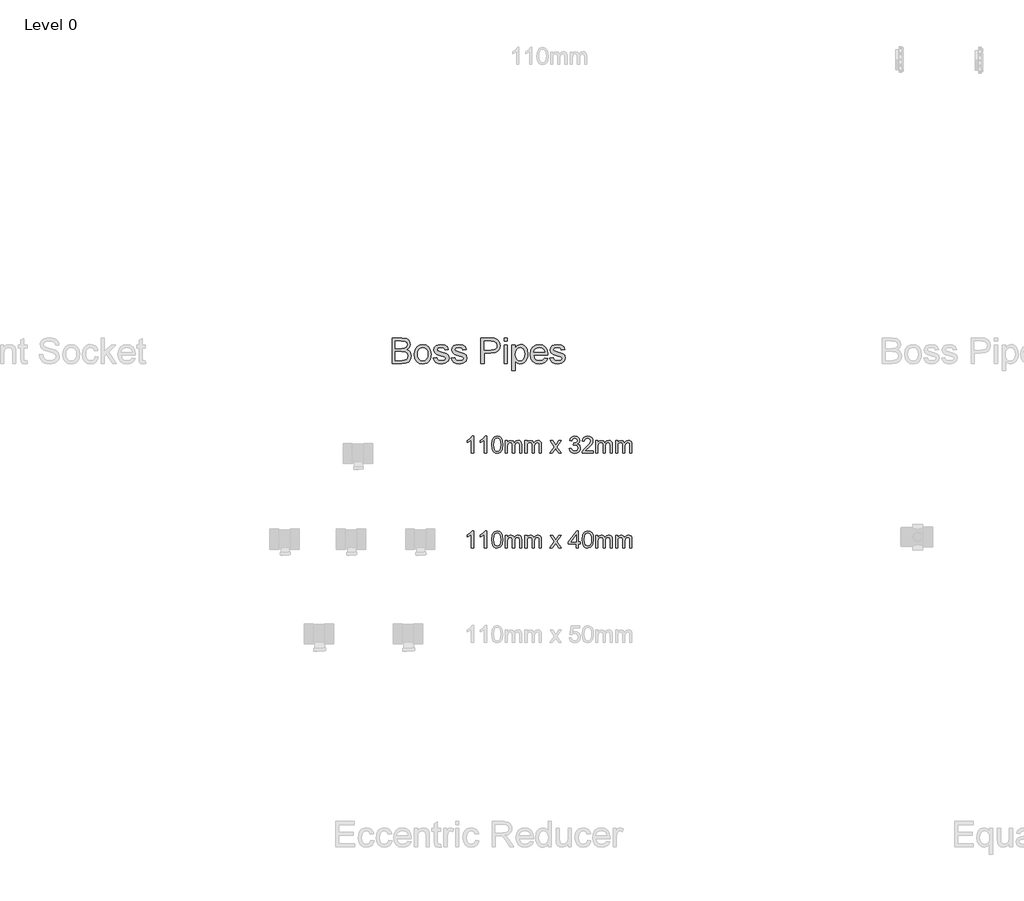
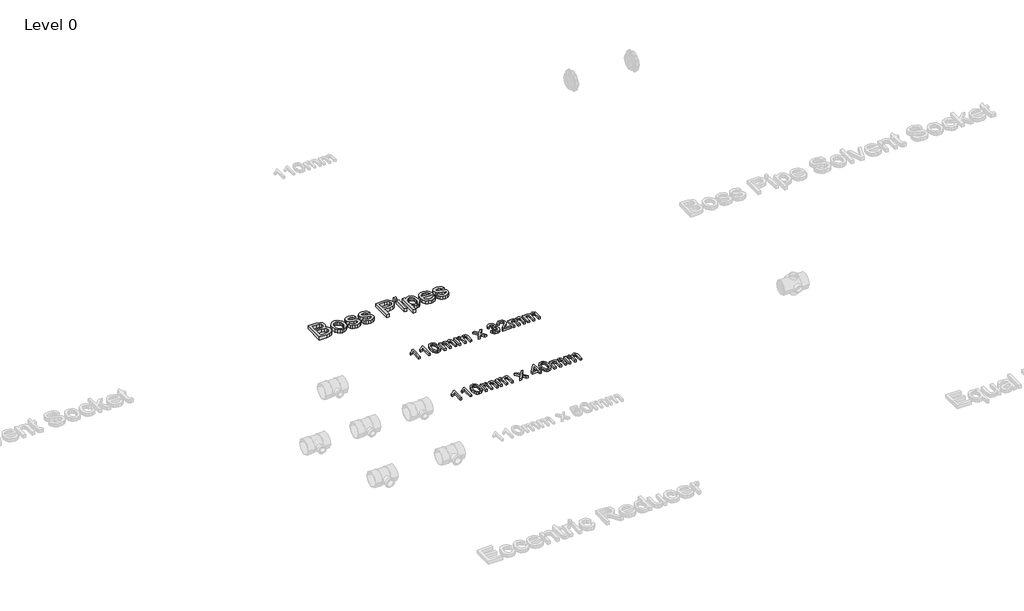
# One storey, part 12 of 28: 3 proxies.
"""IFC4 building model written with IfcOpenShell, lengths in millimetres."""

from ifc_helpers import new_model, si_unit, origin, origin_with_axes, place, context, project, spatial, polyline, outline, extrude, element, save

model = new_model("IFC4")

# Units and contexts
model_context = context("Model", 3, world=origin())
ifc_project = project(units=[si_unit("LENGTHUNIT", "METRE", prefix="MILLI")], contexts=[model_context])

# Site, building, storey
site = spatial("IfcSite", under=ifc_project)
building = spatial("IfcBuilding", under=site)
storey = spatial("IfcBuildingStorey", under=building, Name="Level 0", Elevation=0.0)

# Proxies
placement = place(None, origin())
element("IfcBuildingElementProxy", 1, Name="100mm Arial", ObjectType="100mm Arial", at=placement, inside=storey, context=model_context, shape_type="SweptSolid", body=[
    extrude(outline(polyline([(-17554.0370111, 5986.6504048), (-17566.3447034, 5986.6504048), (-17566.3447034, 6063.381174), (-17578.0033572, 6055.0758856), (-17590.960088, 6048.8619433), (-17590.960088, 6060.4965587), (-17572.9192226, 6072.0109817), (-17561.9697034, 6085.1119433), (-17554.0370111, 6085.1119433), (-17554.0370111, 5986.6504048)])), origin_with_axes(), (0.0, 0.0, 1.0), 15.0),
    extrude(outline(polyline([(-17478.6523957, 5986.6504048), (-17490.960088, 5986.6504048), (-17490.960088, 6063.381174), (-17502.6187418, 6055.0758856), (-17515.5754726, 6048.8619433), (-17515.5754726, 6060.4965587), (-17497.5346072, 6072.0109817), (-17486.585088, 6085.1119433), (-17478.6523957, 6085.1119433), (-17478.6523957, 5986.6504048)])), origin_with_axes(), (0.0, 0.0, 1.0), 15.0),
    extrude(outline(polyline([(-17449.4216264, 6035.0879048), (-17445.803838, 6063.4172317), (-17435.0586457, 6079.7513663), (-17417.1139341, 6085.1119433), (-17402.7389341, 6081.9388663), (-17392.8110495, 6072.7922317), (-17387.0418188, 6058.224924), (-17384.8062418, 6035.0879048), (-17388.3879726, 6006.8787702), (-17399.0971072, 5990.5085779), (-17417.1139341, 5985.1119433), (-17429.9023957, 5987.4556933), (-17439.6139341, 5994.4869433), (-17446.9697034, 6011.1395875), (-17449.4216264, 6035.0879048)]), holes=[polyline([(-17437.1139341, 6035.1119433), (-17435.6716264, 6015.7519673), (-17431.3447034, 6004.5470394), (-17424.9023957, 5999.2014865), (-17417.1139341, 5997.4196356), (-17409.3254726, 5999.2074962), (-17402.8831649, 6004.5710779), (-17398.5562418, 6015.7820154), (-17397.1139341, 6035.1119433), (-17398.5081649, 6054.0362221), (-17402.6908572, 6065.3282894), (-17409.1211457, 6070.9352606), (-17417.2581649, 6072.804251), (-17424.9624918, 6071.1576163), (-17431.1523957, 6066.2177125), (-17435.6235495, 6054.2225202), (-17437.1139341, 6035.1119433)])]), origin_with_axes(), (0.0, 0.0, 1.0), 15.0),
    extrude(outline(polyline([(-17370.960088, 5986.6504048), (-17370.960088, 6058.9580971), (-17358.6523957, 6058.9580971), (-17358.6523957, 6047.0590587), (-17350.1908572, 6056.8066548), (-17338.147588, 6060.4965587), (-17325.8158572, 6056.7345394), (-17319.0370111, 6046.193674), (-17309.4336457, 6056.9208375), (-17297.3062418, 6060.4965587), (-17288.0544389, 6059.0091788), (-17281.2124918, 6054.5470394), (-17276.9847274, 6046.9899481), (-17275.5754726, 6036.2177125), (-17275.5754726, 5986.6504048), (-17287.8831649, 5986.6504048), (-17287.8831649, 6030.929251), (-17289.0249918, 6041.2056933), (-17293.1596072, 6046.2657894), (-17300.1908572, 6048.1888663), (-17312.2942226, 6043.2609817), (-17317.1139341, 6027.4677125), (-17317.1139341, 5986.6504048), (-17329.4216264, 5986.6504048), (-17329.4216264, 6032.2994433), (-17332.2701841, 6044.2225202), (-17341.6091264, 6048.1888663), (-17350.7197034, 6045.5446356), (-17356.7773957, 6037.804251), (-17358.6523957, 6023.116751), (-17358.6523957, 5986.6504048), (-17370.960088, 5986.6504048)])), origin_with_axes(), (0.0, 0.0, 1.0), 15.0),
    extrude(outline(polyline([(-17257.1139341, 5986.6504048), (-17257.1139341, 6058.9580971), (-17244.8062418, 6058.9580971), (-17244.8062418, 6047.0590587), (-17236.3447034, 6056.8066548), (-17224.3014341, 6060.4965587), (-17211.9697034, 6056.7345394), (-17205.1908572, 6046.193674), (-17195.5874918, 6056.9208375), (-17183.460088, 6060.4965587), (-17174.2082851, 6059.0091788), (-17167.366338, 6054.5470394), (-17163.1385736, 6046.9899481), (-17161.7293188, 6036.2177125), (-17161.7293188, 5986.6504048), (-17174.0370111, 5986.6504048), (-17174.0370111, 6030.929251), (-17175.178838, 6041.2056933), (-17179.3134534, 6046.2657894), (-17186.3447034, 6048.1888663), (-17198.4480688, 6043.2609817), (-17203.2677803, 6027.4677125), (-17203.2677803, 5986.6504048), (-17215.5754726, 5986.6504048), (-17215.5754726, 6032.2994433), (-17218.4240303, 6044.2225202), (-17227.7629726, 6048.1888663), (-17236.8735495, 6045.5446356), (-17242.9312418, 6037.804251), (-17244.8062418, 6023.116751), (-17244.8062418, 5986.6504048), (-17257.1139341, 5986.6504048)])), origin_with_axes(), (0.0, 0.0, 1.0), 15.0),
    extrude(outline(polyline([(-17112.4985495, 5986.6504048), (-17086.2004726, 6022.9965587), (-17110.960088, 6058.9580971), (-17096.1523957, 6058.9580971), (-17084.2052803, 6041.6504048), (-17078.6283572, 6033.4773279), (-17073.7966264, 6040.1600202), (-17060.1908572, 6058.9580971), (-17045.3831649, 6058.9580971), (-17071.3927803, 6022.9965587), (-17046.3447034, 5986.6504048), (-17061.1523957, 5986.6504048), (-17076.2245111, 6008.5013663), (-17078.9889341, 6012.491751), (-17097.6908572, 5986.6504048), (-17112.4985495, 5986.6504048)])), origin_with_axes(), (0.0, 0.0, 1.0), 15.0),
    extrude(outline(polyline([(-17000.1908572, 6012.804251), (-16987.8831649, 6014.3427125), (-16981.0922995, 6001.3859817), (-16968.3879726, 5997.4196356), (-16959.9504726, 5998.7838183), (-16953.4360495, 6002.8763663), (-16947.8831649, 6016.3859817), (-16953.3879726, 6029.1143471), (-16967.3783572, 6034.1504048), (-16976.0081649, 6032.804251), (-16974.6379726, 6045.1119433), (-16972.6668188, 6044.9677125), (-16958.7004726, 6048.5013663), (-16954.0490303, 6052.9845394), (-16952.4985495, 6059.366751), (-16956.9937418, 6068.9941548), (-16968.5802803, 6072.804251), (-16980.3110495, 6068.9580971), (-16986.3447034, 6057.4196356), (-16998.6523957, 6058.9580971), (-16995.0285976, 6070.0097798), (-16988.5802803, 6078.2609817), (-16979.7581649, 6083.3992029), (-16969.0129726, 6085.1119433), (-16954.1692226, 6081.7345394), (-16943.7846072, 6072.5037702), (-16940.1908572, 6060.0879048), (-16943.6043188, 6048.741751), (-16953.7004726, 6040.5927125), (-16940.2870111, 6032.179251), (-16935.5754726, 6016.1696356), (-16937.9312418, 6004.1744433), (-16944.9985495, 5994.1504048), (-16955.6656168, 5987.3715587), (-16968.8206649, 5985.1119433), (-16980.7197034, 5987.0410298), (-16990.4072034, 5992.8282894), (-16997.1439822, 6001.6804529), (-17000.1908572, 6012.804251)])), origin_with_axes(), (0.0, 0.0, 1.0), 15.0),
    extrude(outline(polyline([(-16861.7293188, 5998.9580971), (-16861.7293188, 5986.6504048), (-16926.3447034, 5986.6504048), (-16925.022588, 5995.1359817), (-16917.5466264, 6008.2008856), (-16902.1379726, 6022.4677125), (-16880.8879726, 6042.9725202), (-16875.5754726, 6056.9148279), (-16880.5874918, 6068.2008856), (-16893.6764341, 6072.804251), (-16907.3182611, 6068.3090587), (-16912.4985495, 6055.881174), (-16924.8062418, 6057.4196356), (-16921.8224678, 6069.3246837), (-16915.3711457, 6078.0205971), (-16905.7888139, 6083.3391067), (-16893.4120111, 6085.1119433), (-16880.9450639, 6083.1407894), (-16871.3807611, 6077.2273279), (-16865.2960255, 6068.3931933), (-16863.2677803, 6057.6600202), (-16865.4552803, 6045.9893471), (-16872.7269149, 6033.9220394), (-16890.3591264, 6017.0590587), (-16904.5177803, 6005.2201163), (-16910.0706649, 5998.9580971), (-16861.7293188, 5998.9580971)])), origin_with_axes(), (0.0, 0.0, 1.0), 15.0),
    extrude(outline(polyline([(-16846.3447034, 5986.6504048), (-16846.3447034, 6058.9580971), (-16834.0370111, 6058.9580971), (-16834.0370111, 6047.0590587), (-16825.5754726, 6056.8066548), (-16813.5322034, 6060.4965587), (-16801.2004726, 6056.7345394), (-16794.4216264, 6046.193674), (-16784.8182611, 6056.9208375), (-16772.6908572, 6060.4965587), (-16763.4390543, 6059.0091788), (-16756.5971072, 6054.5470394), (-16752.3693428, 6046.9899481), (-16750.960088, 6036.2177125), (-16750.960088, 5986.6504048), (-16763.2677803, 5986.6504048), (-16763.2677803, 6030.929251), (-16764.4096072, 6041.2056933), (-16768.5442226, 6046.2657894), (-16775.5754726, 6048.1888663), (-16787.678838, 6043.2609817), (-16792.4985495, 6027.4677125), (-16792.4985495, 5986.6504048), (-16804.8062418, 5986.6504048), (-16804.8062418, 6032.2994433), (-16807.6547995, 6044.2225202), (-16816.9937418, 6048.1888663), (-16826.1043188, 6045.5446356), (-16832.1620111, 6037.804251), (-16834.0370111, 6023.116751), (-16834.0370111, 5986.6504048), (-16846.3447034, 5986.6504048)])), origin_with_axes(), (0.0, 0.0, 1.0), 15.0),
    extrude(outline(polyline([(-16732.4985495, 5986.6504048), (-16732.4985495, 6058.9580971), (-16720.1908572, 6058.9580971), (-16720.1908572, 6047.0590587), (-16711.7293188, 6056.8066548), (-16699.6860495, 6060.4965587), (-16687.3543188, 6056.7345394), (-16680.5754726, 6046.193674), (-16670.9721072, 6056.9208375), (-16658.8447034, 6060.4965587), (-16649.5929005, 6059.0091788), (-16642.7509534, 6054.5470394), (-16638.5231889, 6046.9899481), (-16637.1139341, 6036.2177125), (-16637.1139341, 5986.6504048), (-16649.4216264, 5986.6504048), (-16649.4216264, 6030.929251), (-16650.5634534, 6041.2056933), (-16654.6980688, 6046.2657894), (-16661.7293188, 6048.1888663), (-16673.8326841, 6043.2609817), (-16678.6523957, 6027.4677125), (-16678.6523957, 5986.6504048), (-16690.960088, 5986.6504048), (-16690.960088, 6032.2994433), (-16693.8086457, 6044.2225202), (-16703.147588, 6048.1888663), (-16712.2581649, 6045.5446356), (-16718.3158572, 6037.804251), (-16720.1908572, 6023.116751), (-16720.1908572, 5986.6504048), (-16732.4985495, 5986.6504048)])), origin_with_axes(), (0.0, 0.0, 1.0), 15.0),
])
element("IfcBuildingElementProxy", 2, Name="100mm Arial", ObjectType="100mm Arial", at=placement, inside=storey, context=model_context, shape_type="SweptSolid", body=[
    extrude(outline(polyline([(-17554.0370111, 5437.7167304), (-17566.3447034, 5437.7167304), (-17566.3447034, 5514.4474996), (-17578.0033572, 5506.1422111), (-17590.960088, 5499.9282688), (-17590.960088, 5511.5628842), (-17572.9192226, 5523.0773073), (-17561.9697034, 5536.1782688), (-17554.0370111, 5536.1782688), (-17554.0370111, 5437.7167304)])), origin_with_axes(), (0.0, 0.0, 1.0), 15.0),
    extrude(outline(polyline([(-17478.6523957, 5437.7167304), (-17490.960088, 5437.7167304), (-17490.960088, 5514.4474996), (-17502.6187418, 5506.1422111), (-17515.5754726, 5499.9282688), (-17515.5754726, 5511.5628842), (-17497.5346072, 5523.0773073), (-17486.585088, 5536.1782688), (-17478.6523957, 5536.1782688), (-17478.6523957, 5437.7167304)])), origin_with_axes(), (0.0, 0.0, 1.0), 15.0),
    extrude(outline(polyline([(-17449.4216264, 5486.1542304), (-17445.803838, 5514.4835573), (-17435.0586457, 5530.8176919), (-17417.1139341, 5536.1782688), (-17402.7389341, 5533.0051919), (-17392.8110495, 5523.8585573), (-17387.0418188, 5509.2912496), (-17384.8062418, 5486.1542304), (-17388.3879726, 5457.9450958), (-17399.0971072, 5441.5749035), (-17417.1139341, 5436.1782688), (-17429.9023957, 5438.5220188), (-17439.6139341, 5445.5532688), (-17446.9697034, 5462.2059131), (-17449.4216264, 5486.1542304)]), holes=[polyline([(-17437.1139341, 5486.1782688), (-17435.6716264, 5466.8182929), (-17431.3447034, 5455.613365), (-17424.9023957, 5450.2678121), (-17417.1139341, 5448.4859611), (-17409.3254726, 5450.2738217), (-17402.8831649, 5455.6374035), (-17398.5562418, 5466.848341), (-17397.1139341, 5486.1782688), (-17398.5081649, 5505.1025477), (-17402.6908572, 5516.394615), (-17409.1211457, 5522.0015861), (-17417.2581649, 5523.8705765), (-17424.9624918, 5522.2239419), (-17431.1523957, 5517.2840381), (-17435.6235495, 5505.2888458), (-17437.1139341, 5486.1782688)])]), origin_with_axes(), (0.0, 0.0, 1.0), 15.0),
    extrude(outline(polyline([(-17370.960088, 5437.7167304), (-17370.960088, 5510.0244227), (-17358.6523957, 5510.0244227), (-17358.6523957, 5498.1253842), (-17350.1908572, 5507.8729804), (-17338.147588, 5511.5628842), (-17325.8158572, 5507.800865), (-17319.0370111, 5497.2599996), (-17309.4336457, 5507.9871631), (-17297.3062418, 5511.5628842), (-17288.0544389, 5510.0755044), (-17281.2124918, 5505.613365), (-17276.9847274, 5498.0562736), (-17275.5754726, 5487.2840381), (-17275.5754726, 5437.7167304), (-17287.8831649, 5437.7167304), (-17287.8831649, 5481.9955765), (-17289.0249918, 5492.2720188), (-17293.1596072, 5497.332115), (-17300.1908572, 5499.2551919), (-17312.2942226, 5494.3273073), (-17317.1139341, 5478.5340381), (-17317.1139341, 5437.7167304), (-17329.4216264, 5437.7167304), (-17329.4216264, 5483.3657688), (-17332.2701841, 5495.2888458), (-17341.6091264, 5499.2551919), (-17350.7197034, 5496.6109611), (-17356.7773957, 5488.8705765), (-17358.6523957, 5474.1830765), (-17358.6523957, 5437.7167304), (-17370.960088, 5437.7167304)])), origin_with_axes(), (0.0, 0.0, 1.0), 15.0),
    extrude(outline(polyline([(-17257.1139341, 5437.7167304), (-17257.1139341, 5510.0244227), (-17244.8062418, 5510.0244227), (-17244.8062418, 5498.1253842), (-17236.3447034, 5507.8729804), (-17224.3014341, 5511.5628842), (-17211.9697034, 5507.800865), (-17205.1908572, 5497.2599996), (-17195.5874918, 5507.9871631), (-17183.460088, 5511.5628842), (-17174.2082851, 5510.0755044), (-17167.366338, 5505.613365), (-17163.1385736, 5498.0562736), (-17161.7293188, 5487.2840381), (-17161.7293188, 5437.7167304), (-17174.0370111, 5437.7167304), (-17174.0370111, 5481.9955765), (-17175.178838, 5492.2720188), (-17179.3134534, 5497.332115), (-17186.3447034, 5499.2551919), (-17198.4480688, 5494.3273073), (-17203.2677803, 5478.5340381), (-17203.2677803, 5437.7167304), (-17215.5754726, 5437.7167304), (-17215.5754726, 5483.3657688), (-17218.4240303, 5495.2888458), (-17227.7629726, 5499.2551919), (-17236.8735495, 5496.6109611), (-17242.9312418, 5488.8705765), (-17244.8062418, 5474.1830765), (-17244.8062418, 5437.7167304), (-17257.1139341, 5437.7167304)])), origin_with_axes(), (0.0, 0.0, 1.0), 15.0),
    extrude(outline(polyline([(-17112.4985495, 5437.7167304), (-17086.2004726, 5474.0628842), (-17110.960088, 5510.0244227), (-17096.1523957, 5510.0244227), (-17084.2052803, 5492.7167304), (-17078.6283572, 5484.5436535), (-17073.7966264, 5491.2263458), (-17060.1908572, 5510.0244227), (-17045.3831649, 5510.0244227), (-17071.3927803, 5474.0628842), (-17046.3447034, 5437.7167304), (-17061.1523957, 5437.7167304), (-17076.2245111, 5459.5676919), (-17078.9889341, 5463.5580765), (-17097.6908572, 5437.7167304), (-17112.4985495, 5437.7167304)])), origin_with_axes(), (0.0, 0.0, 1.0), 15.0),
    extrude(outline(polyline([(-16960.1908572, 5437.7167304), (-16960.1908572, 5460.7936535), (-17004.8062418, 5460.7936535), (-17004.8062418, 5473.1013458), (-16957.1139341, 5534.6398073), (-16947.8831649, 5534.6398073), (-16947.8831649, 5473.1013458), (-16935.5754726, 5473.1013458), (-16935.5754726, 5460.7936535), (-16947.8831649, 5460.7936535), (-16947.8831649, 5437.7167304), (-16960.1908572, 5437.7167304)]), holes=[polyline([(-16960.1908572, 5473.1013458), (-16960.1908572, 5511.1301919), (-16989.6620111, 5473.1013458), (-16960.1908572, 5473.1013458)])]), origin_with_axes(), (0.0, 0.0, 1.0), 15.0),
    extrude(outline(polyline([(-16924.8062418, 5486.1542304), (-16921.1884534, 5514.4835573), (-16910.4432611, 5530.8176919), (-16892.4985495, 5536.1782688), (-16878.1235495, 5533.0051919), (-16868.1956649, 5523.8585573), (-16862.4264341, 5509.2912496), (-16860.1908572, 5486.1542304), (-16863.772588, 5457.9450958), (-16874.4817226, 5441.5749035), (-16892.4985495, 5436.1782688), (-16905.2870111, 5438.5220188), (-16914.9985495, 5445.5532688), (-16922.3543188, 5462.2059131), (-16924.8062418, 5486.1542304)]), holes=[polyline([(-16912.4985495, 5486.1782688), (-16911.0562418, 5466.8182929), (-16906.7293188, 5455.613365), (-16900.2870111, 5450.2678121), (-16892.4985495, 5448.4859611), (-16884.710088, 5450.2738217), (-16878.2677803, 5455.6374035), (-16873.9408572, 5466.848341), (-16872.4985495, 5486.1782688), (-16873.8927803, 5505.1025477), (-16878.0754726, 5516.394615), (-16884.5057611, 5522.0015861), (-16892.6427803, 5523.8705765), (-16900.3471072, 5522.2239419), (-16906.5370111, 5517.2840381), (-16911.0081649, 5505.2888458), (-16912.4985495, 5486.1782688)])]), origin_with_axes(), (0.0, 0.0, 1.0), 15.0),
    extrude(outline(polyline([(-16846.3447034, 5437.7167304), (-16846.3447034, 5510.0244227), (-16834.0370111, 5510.0244227), (-16834.0370111, 5498.1253842), (-16825.5754726, 5507.8729804), (-16813.5322034, 5511.5628842), (-16801.2004726, 5507.800865), (-16794.4216264, 5497.2599996), (-16784.8182611, 5507.9871631), (-16772.6908572, 5511.5628842), (-16763.4390543, 5510.0755044), (-16756.5971072, 5505.613365), (-16752.3693428, 5498.0562736), (-16750.960088, 5487.2840381), (-16750.960088, 5437.7167304), (-16763.2677803, 5437.7167304), (-16763.2677803, 5481.9955765), (-16764.4096072, 5492.2720188), (-16768.5442226, 5497.332115), (-16775.5754726, 5499.2551919), (-16787.678838, 5494.3273073), (-16792.4985495, 5478.5340381), (-16792.4985495, 5437.7167304), (-16804.8062418, 5437.7167304), (-16804.8062418, 5483.3657688), (-16807.6547995, 5495.2888458), (-16816.9937418, 5499.2551919), (-16826.1043188, 5496.6109611), (-16832.1620111, 5488.8705765), (-16834.0370111, 5474.1830765), (-16834.0370111, 5437.7167304), (-16846.3447034, 5437.7167304)])), origin_with_axes(), (0.0, 0.0, 1.0), 15.0),
    extrude(outline(polyline([(-16732.4985495, 5437.7167304), (-16732.4985495, 5510.0244227), (-16720.1908572, 5510.0244227), (-16720.1908572, 5498.1253842), (-16711.7293188, 5507.8729804), (-16699.6860495, 5511.5628842), (-16687.3543188, 5507.800865), (-16680.5754726, 5497.2599996), (-16670.9721072, 5507.9871631), (-16658.8447034, 5511.5628842), (-16649.5929005, 5510.0755044), (-16642.7509534, 5505.613365), (-16638.5231889, 5498.0562736), (-16637.1139341, 5487.2840381), (-16637.1139341, 5437.7167304), (-16649.4216264, 5437.7167304), (-16649.4216264, 5481.9955765), (-16650.5634534, 5492.2720188), (-16654.6980688, 5497.332115), (-16661.7293188, 5499.2551919), (-16673.8326841, 5494.3273073), (-16678.6523957, 5478.5340381), (-16678.6523957, 5437.7167304), (-16690.960088, 5437.7167304), (-16690.960088, 5483.3657688), (-16693.8086457, 5495.2888458), (-16703.147588, 5499.2551919), (-16712.2581649, 5496.6109611), (-16718.3158572, 5488.8705765), (-16720.1908572, 5474.1830765), (-16720.1908572, 5437.7167304), (-16732.4985495, 5437.7167304)])), origin_with_axes(), (0.0, 0.0, 1.0), 15.0),
])
element("IfcBuildingElementProxy", 3, Name="150mm Arial", ObjectType="150mm Arial", at=placement, inside=storey, context=model_context, shape_type="SweptSolid", body=[
    extrude(outline(polyline([(-18026.3741435, 6505.2145219), (-18026.3741435, 6652.9068296), (-17970.0159704, 6652.9068296), (-17942.413807, 6648.5618777), (-17933.1379656, 6643.049558), (-17926.11573, 6635.2025027), (-17920.2202973, 6616.3082719), (-17925.17823, 6599.0546661), (-17940.1602012, 6585.9837527), (-17929.6989632, 6580.5210123), (-17921.9690954, 6572.2097142), (-17917.1959584, 6561.5997383), (-17915.6049127, 6549.2409642), (-17919.9498647, 6529.3912046), (-17930.7130858, 6515.2565892), (-17946.7767877, 6507.7565892), (-17970.4486627, 6505.2145219), (-18026.3741435, 6505.2145219)]), holes=[polyline([(-18007.912605, 6523.6760604), (-17970.0520281, 6523.6760604), (-17956.350105, 6524.3972142), (-17944.757557, 6528.4176469), (-17937.0772685, 6536.6207719), (-17934.0664512, 6549.0606758), (-17937.600105, 6563.4116373), (-17949.0484223, 6571.9753392), (-17971.8549127, 6574.4452911), (-18007.912605, 6574.4452911), (-18007.912605, 6523.6760604)]), polyline([(-18007.912605, 6592.9068296), (-17974.1986627, 6592.9068296), (-17954.5111627, 6594.4933681), (-17942.6662108, 6601.3263008), (-17938.6818358, 6613.3515411), (-17942.3957781, 6625.3948104), (-17953.0327973, 6632.5162046), (-17976.7587589, 6634.4452911), (-18007.912605, 6634.4452911), (-18007.912605, 6592.9068296)])]), origin_with_axes(), (0.0, 0.0, 1.0), 25.0),
    extrude(outline(polyline([(-17897.1433743, 6559.4452911), (-17893.1499848, 6585.5961325), (-17881.1698166, 6603.9765411), (-17866.3681339, 6612.9819498), (-17848.6457781, 6615.9837527), (-17829.2512469, 6612.3284041), (-17813.7599608, 6601.3623585), (-17803.6052132, 6583.9510003), (-17800.2202973, 6560.9597142), (-17801.7166916, 6542.3088729), (-17806.2058743, 6528.1111565), (-17813.5571363, 6517.4786445), (-17823.6397685, 6509.5234161), (-17835.6154296, 6504.5609762), (-17848.6457781, 6502.9068296), (-17868.2746844, 6506.5486565), (-17883.7479416, 6517.4741373), (-17893.7945161, 6535.2505796), (-17897.1433743, 6559.4452911)]), holes=[polyline([(-17878.6818358, 6559.4813488), (-17876.5454175, 6542.7731157), (-17870.1361627, 6530.86957), (-17860.49073, 6523.7436686), (-17848.6457781, 6521.3683681), (-17836.8549127, 6523.7571902), (-17827.2275089, 6530.9236565), (-17820.8182541, 6542.9849546), (-17818.6818358, 6560.0582719), (-17820.8317757, 6576.2797262), (-17827.2815954, 6588.0210123), (-17836.9225209, 6595.1469137), (-17848.6457781, 6597.5222142), (-17860.49073, 6595.1559282), (-17870.1361627, 6588.05707), (-17876.5454175, 6576.1805676), (-17878.6818358, 6559.4813488)])]), origin_with_axes(), (0.0, 0.0, 1.0), 25.0),
    extrude(outline(polyline([(-17786.3741435, 6537.5222142), (-17767.912605, 6539.8299065), (-17765.0009464, 6531.9332719), (-17759.366932, 6526.1279835), (-17739.787605, 6521.3683681), (-17720.9654897, 6525.7313488), (-17714.835682, 6535.9717335), (-17721.0015473, 6544.2650027), (-17740.0039512, 6549.5294258), (-17767.804432, 6558.5618777), (-17779.9378454, 6569.1087527), (-17784.0664512, 6584.0005796), (-17780.7491435, 6597.7565892), (-17771.6986627, 6608.2674065), (-17759.9618839, 6613.7301469), (-17744.0784704, 6615.9837527), (-17721.6145281, 6612.3599546), (-17707.335682, 6602.5522623), (-17700.9895281, 6585.9837527), (-17719.4510666, 6583.6760604), (-17726.3921723, 6593.8623585), (-17742.6361627, 6597.5222142), (-17760.304432, 6594.0246181), (-17765.6049127, 6585.8755796), (-17763.4053935, 6580.5029835), (-17756.5183743, 6576.4284642), (-17740.616932, 6572.4981758), (-17713.5195762, 6563.8082719), (-17700.9354416, 6553.9645219), (-17696.3741435, 6537.9188488), (-17701.7287108, 6520.2505796), (-17717.179432, 6507.43207), (-17740.0400089, 6502.9068296), (-17758.6547925, 6505.08832), (-17772.2395281, 6511.6327911), (-17781.3080377, 6522.4681277), (-17786.3741435, 6537.5222142)])), origin_with_axes(), (0.0, 0.0, 1.0), 25.0),
    extrude(outline(polyline([(-17682.5279897, 6537.5222142), (-17664.0664512, 6539.8299065), (-17661.1547925, 6531.9332719), (-17655.5207781, 6526.1279835), (-17635.9414512, 6521.3683681), (-17617.1193358, 6525.7313488), (-17610.9895281, 6535.9717335), (-17617.1553935, 6544.2650027), (-17636.1577973, 6549.5294258), (-17663.9582781, 6558.5618777), (-17676.0916916, 6569.1087527), (-17680.2202973, 6584.0005796), (-17676.9029897, 6597.7565892), (-17667.8525089, 6608.2674065), (-17656.11573, 6613.7301469), (-17640.2323166, 6615.9837527), (-17617.7683743, 6612.3599546), (-17603.4895281, 6602.5522623), (-17597.1433743, 6585.9837527), (-17615.6049127, 6583.6760604), (-17622.5460185, 6593.8623585), (-17638.7900089, 6597.5222142), (-17656.4582781, 6594.0246181), (-17661.7587589, 6585.8755796), (-17659.5592397, 6580.5029835), (-17652.6722204, 6576.4284642), (-17636.7707781, 6572.4981758), (-17609.6734223, 6563.8082719), (-17597.0892877, 6553.9645219), (-17592.5279897, 6537.9188488), (-17597.882557, 6520.2505796), (-17613.3332781, 6507.43207), (-17636.193855, 6502.9068296), (-17654.8086387, 6505.08832), (-17668.3933743, 6511.6327911), (-17677.4618839, 6522.4681277), (-17682.5279897, 6537.5222142)])), origin_with_axes(), (0.0, 0.0, 1.0), 25.0),
    extrude(outline(polyline([(-17511.7587589, 6505.2145219), (-17511.7587589, 6652.9068296), (-17457.023182, 6652.9068296), (-17434.9558743, 6651.5005796), (-17417.0171723, 6644.5955315), (-17405.3885666, 6630.3166854), (-17400.9895281, 6610.1784642), (-17403.9597805, 6592.7716133), (-17412.8705377, 6578.2674065), (-17429.5336988, 6568.4777431), (-17455.7611627, 6565.2145219), (-17493.2972204, 6565.2145219), (-17493.2972204, 6505.2145219), (-17511.7587589, 6505.2145219)]), holes=[polyline([(-17493.2972204, 6583.6760604), (-17454.679432, 6583.6760604), (-17438.3092397, 6585.3707719), (-17427.491932, 6590.4549065), (-17421.4612829, 6598.6129594), (-17419.4510666, 6609.5294258), (-17424.1926531, 6624.8178873), (-17436.6505858, 6633.1832719), (-17455.1121243, 6634.4452911), (-17493.2972204, 6634.4452911), (-17493.2972204, 6583.6760604)])]), origin_with_axes(), (0.0, 0.0, 1.0), 25.0),
    extrude(outline(polyline([(-17377.912605, 6634.4452911), (-17377.912605, 6652.9068296), (-17359.4510666, 6652.9068296), (-17359.4510666, 6634.4452911), (-17377.912605, 6634.4452911)])), origin_with_axes(), (0.0, 0.0, 1.0), 25.0),
    extrude(outline(polyline([(-17377.912605, 6505.2145219), (-17377.912605, 6613.6760604), (-17359.4510666, 6613.6760604), (-17359.4510666, 6505.2145219), (-17377.912605, 6505.2145219)])), origin_with_axes(), (0.0, 0.0, 1.0), 25.0),
    extrude(outline(polyline([(-17331.7587589, 6463.6760604), (-17331.7587589, 6613.6760604), (-17313.2972204, 6613.6760604), (-17313.2972204, 6595.5750988), (-17300.5327973, 6610.8815892), (-17283.2972204, 6615.9837527), (-17270.8122445, 6614.1988969), (-17259.8957781, 6608.8443296), (-17251.007557, 6600.24457), (-17244.6073166, 6588.7241373), (-17239.4510666, 6560.2746181), (-17240.9068959, 6544.4858561), (-17245.2743839, 6530.3647623), (-17252.413807, 6518.6279835), (-17262.1854416, 6509.9921661), (-17273.5661507, 6504.6781637), (-17285.5327973, 6502.9068296), (-17301.5964993, 6507.6484161), (-17313.2972204, 6519.6375988), (-17313.2972204, 6463.6760604), (-17331.7587589, 6463.6760604)]), holes=[polyline([(-17313.2972204, 6558.5799065), (-17311.3005257, 6542.0294258), (-17305.3104416, 6530.4549065), (-17296.4717997, 6523.6400027), (-17285.929432, 6521.3683681), (-17275.2157901, 6523.7211325), (-17266.1517877, 6530.7794258), (-17259.9724007, 6542.7776229), (-17257.912605, 6559.9500988), (-17259.9228214, 6576.4104354), (-17265.9534704, 6588.1472142), (-17274.7785906, 6595.1784642), (-17285.1722204, 6597.5222142), (-17295.6064151, 6595.0297262), (-17304.7695762, 6587.5522623), (-17311.1653094, 6575.3241974), (-17313.2972204, 6558.5799065)])]), origin_with_axes(), (0.0, 0.0, 1.0), 25.0),
    extrude(outline(polyline([(-17142.7443358, 6537.5222142), (-17124.6433743, 6535.2145219), (-17131.1653094, 6521.5756998), (-17141.5724608, 6511.3803873), (-17155.6304536, 6505.025219), (-17173.1049127, 6502.9068296), (-17194.7665714, 6506.5621782), (-17211.4342397, 6517.5282238), (-17222.0622445, 6535.0928272), (-17225.6049127, 6558.5438488), (-17222.0261868, 6582.7836325), (-17211.2900089, 6600.9116373), (-17194.8477012, 6612.2157238), (-17174.1505858, 6615.9837527), (-17154.0980017, 6612.2247383), (-17138.0748647, 6600.947695), (-17127.5685546, 6582.8557479), (-17124.0664512, 6558.6520219), (-17124.1746243, 6553.6760604), (-17207.1433743, 6553.6760604), (-17203.9477613, 6539.8569498), (-17196.5243839, 6529.697695), (-17185.8107421, 6523.4506998), (-17172.7443358, 6521.3683681), (-17154.6433743, 6525.2265411), (-17142.7443358, 6537.5222142)]), holes=[polyline([(-17207.1433743, 6572.1375988), (-17142.5279897, 6572.1375988), (-17145.0249848, 6581.8912046), (-17149.9198166, 6588.8683681), (-17160.6830377, 6595.3587527), (-17174.2227012, 6597.5222142), (-17186.6671122, 6595.7959522), (-17196.9570762, 6590.6171661), (-17204.1100209, 6582.5447503), (-17207.1433743, 6572.1375988)])]), origin_with_axes(), (0.0, 0.0, 1.0), 25.0),
    extrude(outline(polyline([(-17112.5279897, 6537.5222142), (-17094.0664512, 6539.8299065), (-17091.1547925, 6531.9332719), (-17085.5207781, 6526.1279835), (-17065.9414512, 6521.3683681), (-17047.1193358, 6525.7313488), (-17040.9895281, 6535.9717335), (-17047.1553935, 6544.2650027), (-17066.1577973, 6549.5294258), (-17093.9582781, 6558.5618777), (-17106.0916916, 6569.1087527), (-17110.2202973, 6584.0005796), (-17106.9029897, 6597.7565892), (-17097.8525089, 6608.2674065), (-17086.11573, 6613.7301469), (-17070.2323166, 6615.9837527), (-17047.7683743, 6612.3599546), (-17033.4895281, 6602.5522623), (-17027.1433743, 6585.9837527), (-17045.6049127, 6583.6760604), (-17052.5460185, 6593.8623585), (-17068.7900089, 6597.5222142), (-17086.4582781, 6594.0246181), (-17091.7587589, 6585.8755796), (-17089.5592397, 6580.5029835), (-17082.6722204, 6576.4284642), (-17066.7707781, 6572.4981758), (-17039.6734223, 6563.8082719), (-17027.0892877, 6553.9645219), (-17022.5279897, 6537.9188488), (-17027.882557, 6520.2505796), (-17043.3332781, 6507.43207), (-17066.193855, 6502.9068296), (-17084.8086387, 6505.08832), (-17098.3933743, 6511.6327911), (-17107.4618839, 6522.4681277), (-17112.5279897, 6537.5222142)])), origin_with_axes(), (0.0, 0.0, 1.0), 25.0),
])

save(model, "model.ifc")
